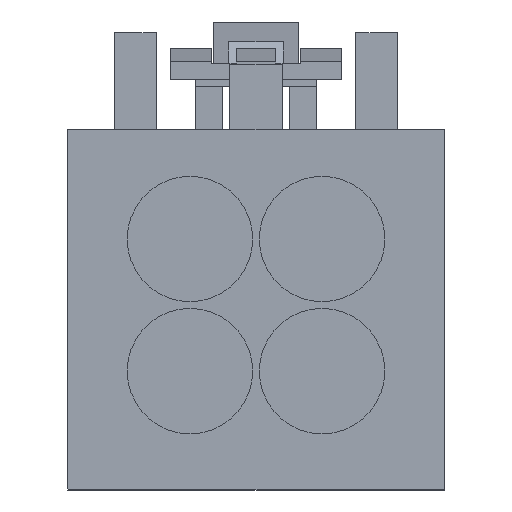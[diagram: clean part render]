
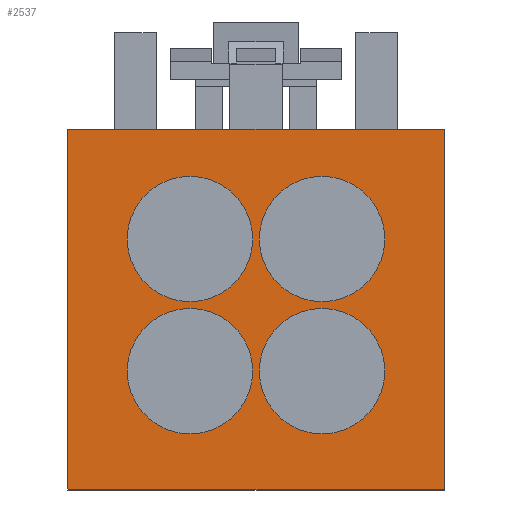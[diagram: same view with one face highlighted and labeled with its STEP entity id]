
A CAD part, left-side view. The second image highlights one B-rep face of the part: STEP entity #2537.
In plain terms, the highlighted planar face has unit normal (-1, 0, 0).
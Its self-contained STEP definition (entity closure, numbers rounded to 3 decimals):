
#2318=AXIS2_PLACEMENT_3D('Circle Axis2P3D',#2316,#2317,$) ;
#2454=AXIS2_PLACEMENT_3D('Plane Axis2P3D',#2451,#2452,#2453) ;
#2476=AXIS2_PLACEMENT_3D('Circle Axis2P3D',#2474,#2475,$) ;
#2485=AXIS2_PLACEMENT_3D('Circle Axis2P3D',#2483,#2484,$) ;
#2494=AXIS2_PLACEMENT_3D('Circle Axis2P3D',#2492,#2493,$) ;
#2503=AXIS2_PLACEMENT_3D('Circle Axis2P3D',#2501,#2502,$) ;
#2512=AXIS2_PLACEMENT_3D('Circle Axis2P3D',#2510,#2511,$) ;
#2521=AXIS2_PLACEMENT_3D('Circle Axis2P3D',#2519,#2520,$) ;
#2530=AXIS2_PLACEMENT_3D('Circle Axis2P3D',#2528,#2529,$) ;
#1188=CARTESIAN_POINT('Vertex',(-22.55,7.7,3.32)) ;
#1191=CARTESIAN_POINT('Line Origine',(-22.55,2.,3.32)) ;
#1195=CARTESIAN_POINT('Vertex',(-22.55,-3.7,3.32)) ;
#2311=CARTESIAN_POINT('Vertex',(-22.55,-1.9,-4.)) ;
#2316=CARTESIAN_POINT('Axis2P3D Location',(-22.55,0.,-4.)) ;
#2320=CARTESIAN_POINT('Vertex',(-22.55,1.9,-4.)) ;
#2422=CARTESIAN_POINT('Vertex',(-22.55,7.7,-7.6)) ;
#2427=CARTESIAN_POINT('Line Origine',(-22.55,7.7,-2.14)) ;
#2451=CARTESIAN_POINT('Axis2P3D Location',(-22.55,-45.,0.)) ;
#2456=CARTESIAN_POINT('Line Origine',(-22.55,2.,-7.6)) ;
#2460=CARTESIAN_POINT('Vertex',(-22.55,-3.7,-7.6)) ;
#2463=CARTESIAN_POINT('Line Origine',(-22.55,-3.7,-2.14)) ;
#2474=CARTESIAN_POINT('Axis2P3D Location',(-22.55,0.,0.)) ;
#2478=CARTESIAN_POINT('Vertex',(-22.55,1.9,0.)) ;
#2480=CARTESIAN_POINT('Vertex',(-22.55,-1.9,0.)) ;
#2483=CARTESIAN_POINT('Axis2P3D Location',(-22.55,0.,0.)) ;
#2492=CARTESIAN_POINT('Axis2P3D Location',(-22.55,0.,-4.)) ;
#2501=CARTESIAN_POINT('Axis2P3D Location',(-22.55,4.,-4.)) ;
#2505=CARTESIAN_POINT('Vertex',(-22.55,2.1,-4.)) ;
#2507=CARTESIAN_POINT('Vertex',(-22.55,5.9,-4.)) ;
#2510=CARTESIAN_POINT('Axis2P3D Location',(-22.55,4.,-4.)) ;
#2519=CARTESIAN_POINT('Axis2P3D Location',(-22.55,4.,0.)) ;
#2523=CARTESIAN_POINT('Vertex',(-22.55,2.1,0.)) ;
#2525=CARTESIAN_POINT('Vertex',(-22.55,5.9,0.)) ;
#2528=CARTESIAN_POINT('Axis2P3D Location',(-22.55,4.,0.)) ;
#1192=DIRECTION('Vector Direction',(0.,-1.,0.)) ;
#2317=DIRECTION('Axis2P3D Direction',(-1.,0.,0.)) ;
#2428=DIRECTION('Vector Direction',(0.,0.,1.)) ;
#2452=DIRECTION('Axis2P3D Direction',(1.,0.,0.)) ;
#2453=DIRECTION('Axis2P3D XDirection',(0.,1.,0.)) ;
#2457=DIRECTION('Vector Direction',(0.,1.,0.)) ;
#2464=DIRECTION('Vector Direction',(0.,0.,1.)) ;
#2475=DIRECTION('Axis2P3D Direction',(1.,0.,0.)) ;
#2484=DIRECTION('Axis2P3D Direction',(1.,0.,0.)) ;
#2493=DIRECTION('Axis2P3D Direction',(1.,0.,0.)) ;
#2502=DIRECTION('Axis2P3D Direction',(1.,0.,0.)) ;
#2511=DIRECTION('Axis2P3D Direction',(1.,0.,0.)) ;
#2520=DIRECTION('Axis2P3D Direction',(1.,0.,0.)) ;
#2529=DIRECTION('Axis2P3D Direction',(1.,0.,0.)) ;
#1193=VECTOR('Line Direction',#1192,1.) ;
#2429=VECTOR('Line Direction',#2428,1.) ;
#2458=VECTOR('Line Direction',#2457,1.) ;
#2465=VECTOR('Line Direction',#2464,1.) ;
#2469=ORIENTED_EDGE('',*,*,#2462,.F.) ;
#2470=ORIENTED_EDGE('',*,*,#2467,.T.) ;
#2471=ORIENTED_EDGE('',*,*,#1197,.F.) ;
#2472=ORIENTED_EDGE('',*,*,#2431,.F.) ;
#2489=ORIENTED_EDGE('',*,*,#2482,.F.) ;
#2490=ORIENTED_EDGE('',*,*,#2487,.F.) ;
#2498=ORIENTED_EDGE('',*,*,#2496,.F.) ;
#2499=ORIENTED_EDGE('',*,*,#2322,.F.) ;
#2516=ORIENTED_EDGE('',*,*,#2509,.F.) ;
#2517=ORIENTED_EDGE('',*,*,#2514,.F.) ;
#2534=ORIENTED_EDGE('',*,*,#2527,.F.) ;
#2535=ORIENTED_EDGE('',*,*,#2532,.F.) ;
#2491=FACE_BOUND('',#2488,.T.) ;
#2500=FACE_BOUND('',#2497,.T.) ;
#2518=FACE_BOUND('',#2515,.T.) ;
#2536=FACE_BOUND('',#2533,.T.) ;
#2537=ADVANCED_FACE('KEY_G \X2\306E7D50679C\X0\',(#2473,#2491,#2500,#2518,#2536),#2455,.F.) ;
#2319=CIRCLE('generated circle',#2318,1.9) ;
#2477=CIRCLE('generated circle',#2476,1.9) ;
#2486=CIRCLE('generated circle',#2485,1.9) ;
#2495=CIRCLE('generated circle',#2494,1.9) ;
#2504=CIRCLE('generated circle',#2503,1.9) ;
#2513=CIRCLE('generated circle',#2512,1.9) ;
#2522=CIRCLE('generated circle',#2521,1.9) ;
#2531=CIRCLE('generated circle',#2530,1.9) ;
#1197=EDGE_CURVE('',#1189,#1196,#1194,.T.) ;
#2322=EDGE_CURVE('',#2312,#2321,#2319,.T.) ;
#2431=EDGE_CURVE('',#2423,#1189,#2430,.T.) ;
#2462=EDGE_CURVE('',#2461,#2423,#2459,.T.) ;
#2467=EDGE_CURVE('',#2461,#1196,#2466,.T.) ;
#2482=EDGE_CURVE('',#2479,#2481,#2477,.F.) ;
#2487=EDGE_CURVE('',#2481,#2479,#2486,.F.) ;
#2496=EDGE_CURVE('',#2321,#2312,#2495,.F.) ;
#2509=EDGE_CURVE('',#2506,#2508,#2504,.F.) ;
#2514=EDGE_CURVE('',#2508,#2506,#2513,.F.) ;
#2527=EDGE_CURVE('',#2524,#2526,#2522,.F.) ;
#2532=EDGE_CURVE('',#2526,#2524,#2531,.F.) ;
#2468=EDGE_LOOP('',(#2469,#2470,#2471,#2472)) ;
#2488=EDGE_LOOP('',(#2489,#2490)) ;
#2497=EDGE_LOOP('',(#2498,#2499)) ;
#2515=EDGE_LOOP('',(#2516,#2517)) ;
#2533=EDGE_LOOP('',(#2534,#2535)) ;
#2473=FACE_OUTER_BOUND('',#2468,.T.) ;
#1194=LINE('Line',#1191,#1193) ;
#2430=LINE('Line',#2427,#2429) ;
#2459=LINE('Line',#2456,#2458) ;
#2466=LINE('Line',#2463,#2465) ;
#2455=PLANE('',#2454) ;
#1189=VERTEX_POINT('',#1188) ;
#1196=VERTEX_POINT('',#1195) ;
#2312=VERTEX_POINT('',#2311) ;
#2321=VERTEX_POINT('',#2320) ;
#2423=VERTEX_POINT('',#2422) ;
#2461=VERTEX_POINT('',#2460) ;
#2479=VERTEX_POINT('',#2478) ;
#2481=VERTEX_POINT('',#2480) ;
#2506=VERTEX_POINT('',#2505) ;
#2508=VERTEX_POINT('',#2507) ;
#2524=VERTEX_POINT('',#2523) ;
#2526=VERTEX_POINT('',#2525) ;
